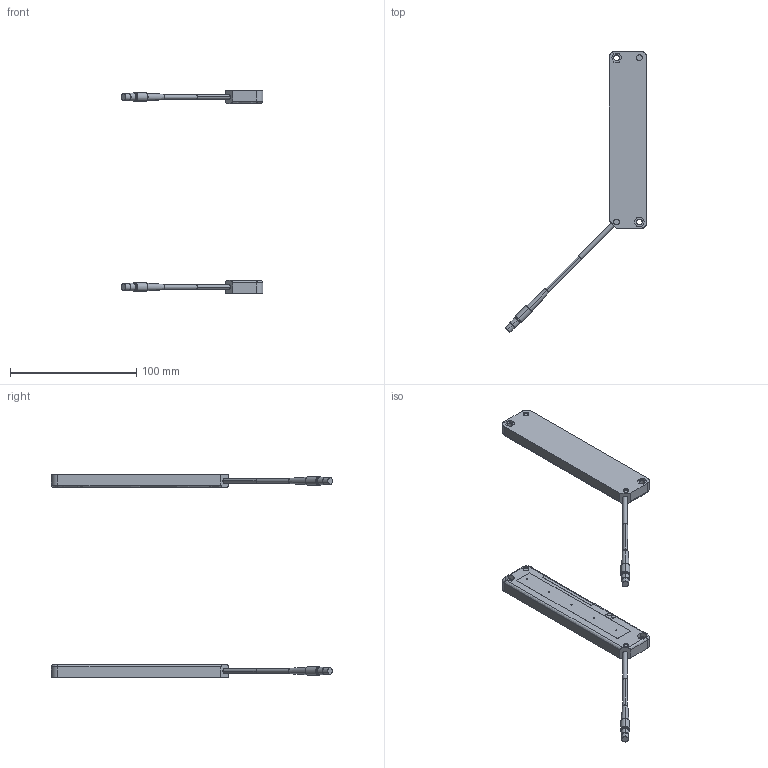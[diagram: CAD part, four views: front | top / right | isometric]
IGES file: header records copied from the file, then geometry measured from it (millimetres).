
Start section: SolidWorks IGES FILE using analytic representation for surfaces
Global section: file name: \\intra-srv04\開発データ\CAD_Data\CAD委員会\3D電子ｶﾀﾛｸﾞ\製品カタログ（新）\0_IGES\NA1-PK5.IGS,41HSolidWorks 2004; native system: by SolidWorks Corporation; preprocessor: Version 5.3; author: yk0651; date: 050909.143527; units: millimetre
Bounding box: 112.29 x 222.4 x 160 mm (x, y, z)
Surface area: 26976.9 mm2 (no closed solid volume)
Topology: 0 solids, 0 shells, 244 faces, 3368 edges, 3368 vertices
Faces by surface type: bspline 147, revolution 97
